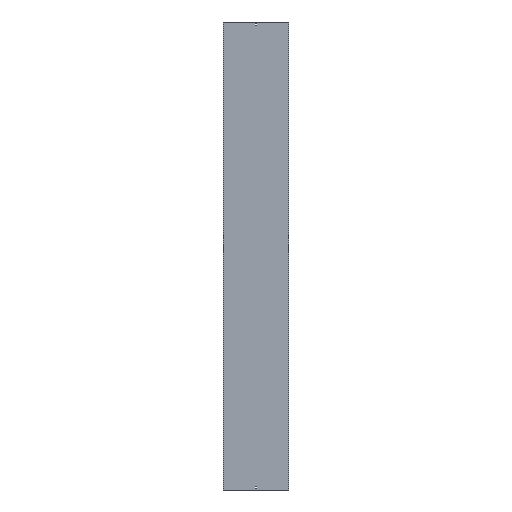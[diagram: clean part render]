
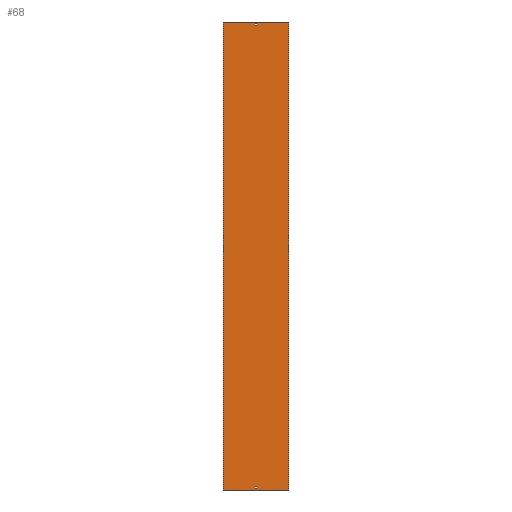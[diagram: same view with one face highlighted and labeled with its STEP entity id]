
A CAD part, front view. The second image highlights one B-rep face of the part: STEP entity #68.
In plain terms, the highlighted planar face has unit normal (0, -1, 0).
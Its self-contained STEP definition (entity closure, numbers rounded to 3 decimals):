
#1 = CARTESIAN_POINT ( 'NONE',  ( 3.25, -1.5, -1479. ) ) ;
#10 = EDGE_LOOP ( 'NONE', ( #485, #196, #287, #453 ) ) ;
#12 = LINE ( 'NONE', #517, #152 ) ;
#16 = VECTOR ( 'NONE', #550, 1000. ) ;
#29 = DIRECTION ( 'NONE',  ( 0., 0., -1. ) ) ;
#41 = VECTOR ( 'NONE', #467, 1000. ) ;
#44 = DIRECTION ( 'NONE',  ( 0., 0., -1. ) ) ;
#58 = CARTESIAN_POINT ( 'NONE',  ( -211.5, -1.5, 1479. ) ) ;
#61 = EDGE_CURVE ( 'NONE', #273, #281, #483, .T. ) ;
#62 = VERTEX_POINT ( 'NONE', #77 ) ;
#64 = AXIS2_PLACEMENT_3D ( 'NONE', #478, #428, #29 ) ;
#68 = ADVANCED_FACE ( 'NONE', ( #579, #443, #330 ), #525, .T. ) ;
#71 = CARTESIAN_POINT ( 'NONE',  ( -211.5, -1.5, 1500. ) ) ;
#73 = CARTESIAN_POINT ( 'NONE',  ( 210., -1.5, -1500. ) ) ;
#77 = CARTESIAN_POINT ( 'NONE',  ( 3.25, -1.5, -1488. ) ) ;
#82 = DIRECTION ( 'NONE',  ( 0., 0., 1. ) ) ;
#90 = LINE ( 'NONE', #257, #189 ) ;
#103 = CARTESIAN_POINT ( 'NONE',  ( -211.5, -1.5, 1488. ) ) ;
#106 = EDGE_CURVE ( 'NONE', #473, #266, #183, .T. ) ;
#107 = DIRECTION ( 'NONE',  ( 0., 0., -1. ) ) ;
#124 = EDGE_CURVE ( 'NONE', #495, #240, #545, .T. ) ;
#132 = ORIENTED_EDGE ( 'NONE', *, *, #575, .F. ) ;
#148 = EDGE_CURVE ( 'NONE', #336, #450, #90, .T. ) ;
#150 = VECTOR ( 'NONE', #571, 1000. ) ;
#152 = VECTOR ( 'NONE', #107, 1000. ) ;
#155 = EDGE_CURVE ( 'NONE', #62, #273, #335, .T. ) ;
#158 = VECTOR ( 'NONE', #44, 1000. ) ;
#164 = EDGE_CURVE ( 'NONE', #477, #62, #581, .T. ) ;
#169 = CARTESIAN_POINT ( 'NONE',  ( 3.25, -1.5, 1500. ) ) ;
#174 = ORIENTED_EDGE ( 'NONE', *, *, #124, .F. ) ;
#183 = LINE ( 'NONE', #103, #566 ) ;
#186 = LINE ( 'NONE', #509, #475 ) ;
#189 = VECTOR ( 'NONE', #216, 1000. ) ;
#190 = LINE ( 'NONE', #277, #41 ) ;
#192 = EDGE_CURVE ( 'NONE', #315, #450, #254, .T. ) ;
#196 = ORIENTED_EDGE ( 'NONE', *, *, #61, .T. ) ;
#206 = CARTESIAN_POINT ( 'NONE',  ( 3.25, -1.5, 1488. ) ) ;
#216 = DIRECTION ( 'NONE',  ( -1., 0., 0. ) ) ;
#221 = VECTOR ( 'NONE', #295, 1000. ) ;
#240 = VERTEX_POINT ( 'NONE', #516 ) ;
#254 = LINE ( 'NONE', #445, #158 ) ;
#257 = CARTESIAN_POINT ( 'NONE',  ( -211.5, -1.5, -1500. ) ) ;
#262 = EDGE_CURVE ( 'NONE', #392, #315, #381, .T. ) ;
#266 = VERTEX_POINT ( 'NONE', #574 ) ;
#273 = VERTEX_POINT ( 'NONE', #280 ) ;
#277 = CARTESIAN_POINT ( 'NONE',  ( -211.5, -1.5, -1479. ) ) ;
#280 = CARTESIAN_POINT ( 'NONE',  ( -3.25, -1.5, -1488. ) ) ;
#281 = VERTEX_POINT ( 'NONE', #474 ) ;
#285 = ORIENTED_EDGE ( 'NONE', *, *, #262, .T. ) ;
#287 = ORIENTED_EDGE ( 'NONE', *, *, #527, .T. ) ;
#288 = EDGE_CURVE ( 'NONE', #392, #336, #339, .T. ) ;
#295 = DIRECTION ( 'NONE',  ( 0., 0., -1. ) ) ;
#310 = EDGE_LOOP ( 'NONE', ( #380, #537, #285, #547 ) ) ;
#315 = VERTEX_POINT ( 'NONE', #479 ) ;
#317 = VECTOR ( 'NONE', #430, 1000. ) ;
#322 = DIRECTION ( 'NONE',  ( 0., 0., 1. ) ) ;
#330 = FACE_BOUND ( 'NONE', #10, .T. ) ;
#334 = CARTESIAN_POINT ( 'NONE',  ( 210., -1.5, 1500. ) ) ;
#335 = LINE ( 'NONE', #484, #317 ) ;
#336 = VERTEX_POINT ( 'NONE', #73 ) ;
#339 = LINE ( 'NONE', #334, #341 ) ;
#340 = ORIENTED_EDGE ( 'NONE', *, *, #106, .F. ) ;
#341 = VECTOR ( 'NONE', #481, 1000. ) ;
#359 = CARTESIAN_POINT ( 'NONE',  ( -210., -1.5, -1500. ) ) ;
#364 = DIRECTION ( 'NONE',  ( -1., 0., 0. ) ) ;
#376 = EDGE_LOOP ( 'NONE', ( #132, #340, #413, #174 ) ) ;
#380 = ORIENTED_EDGE ( 'NONE', *, *, #148, .F. ) ;
#381 = LINE ( 'NONE', #71, #150 ) ;
#392 = VERTEX_POINT ( 'NONE', #394 ) ;
#394 = CARTESIAN_POINT ( 'NONE',  ( 210., -1.5, 1500. ) ) ;
#413 = ORIENTED_EDGE ( 'NONE', *, *, #523, .F. ) ;
#428 = DIRECTION ( 'NONE',  ( 0., -1., 0. ) ) ;
#429 = VECTOR ( 'NONE', #82, 1000. ) ;
#430 = DIRECTION ( 'NONE',  ( -1., 0., 0. ) ) ;
#443 = FACE_OUTER_BOUND ( 'NONE', #310, .T. ) ;
#445 = CARTESIAN_POINT ( 'NONE',  ( -210., -1.5, 1500. ) ) ;
#450 = VERTEX_POINT ( 'NONE', #359 ) ;
#453 = ORIENTED_EDGE ( 'NONE', *, *, #164, .T. ) ;
#467 = DIRECTION ( 'NONE',  ( 1., 0., 0. ) ) ;
#473 = VERTEX_POINT ( 'NONE', #206 ) ;
#474 = CARTESIAN_POINT ( 'NONE',  ( -3.25, -1.5, -1479. ) ) ;
#475 = VECTOR ( 'NONE', #322, 1000. ) ;
#477 = VERTEX_POINT ( 'NONE', #1 ) ;
#478 = CARTESIAN_POINT ( 'NONE',  ( -211.5, -1.5, 1500. ) ) ;
#479 = CARTESIAN_POINT ( 'NONE',  ( -210., -1.5, 1500. ) ) ;
#481 = DIRECTION ( 'NONE',  ( 0., 0., -1. ) ) ;
#483 = LINE ( 'NONE', #489, #429 ) ;
#484 = CARTESIAN_POINT ( 'NONE',  ( -211.5, -1.5, -1488. ) ) ;
#485 = ORIENTED_EDGE ( 'NONE', *, *, #155, .T. ) ;
#489 = CARTESIAN_POINT ( 'NONE',  ( -3.25, -1.5, 1500. ) ) ;
#495 = VERTEX_POINT ( 'NONE', #578 ) ;
#509 = CARTESIAN_POINT ( 'NONE',  ( 3.25, -1.5, 1500. ) ) ;
#516 = CARTESIAN_POINT ( 'NONE',  ( 3.25, -1.5, 1479. ) ) ;
#517 = CARTESIAN_POINT ( 'NONE',  ( -3.25, -1.5, 1500. ) ) ;
#523 = EDGE_CURVE ( 'NONE', #240, #473, #186, .T. ) ;
#525 = PLANE ( 'NONE',  #64 ) ;
#527 = EDGE_CURVE ( 'NONE', #281, #477, #190, .T. ) ;
#537 = ORIENTED_EDGE ( 'NONE', *, *, #288, .F. ) ;
#545 = LINE ( 'NONE', #58, #16 ) ;
#547 = ORIENTED_EDGE ( 'NONE', *, *, #192, .T. ) ;
#550 = DIRECTION ( 'NONE',  ( 1., 0., 0. ) ) ;
#566 = VECTOR ( 'NONE', #364, 1000. ) ;
#571 = DIRECTION ( 'NONE',  ( -1., 0., 0. ) ) ;
#574 = CARTESIAN_POINT ( 'NONE',  ( -3.25, -1.5, 1488. ) ) ;
#575 = EDGE_CURVE ( 'NONE', #266, #495, #12, .T. ) ;
#578 = CARTESIAN_POINT ( 'NONE',  ( -3.25, -1.5, 1479. ) ) ;
#579 = FACE_BOUND ( 'NONE', #376, .T. ) ;
#581 = LINE ( 'NONE', #169, #221 ) ;
